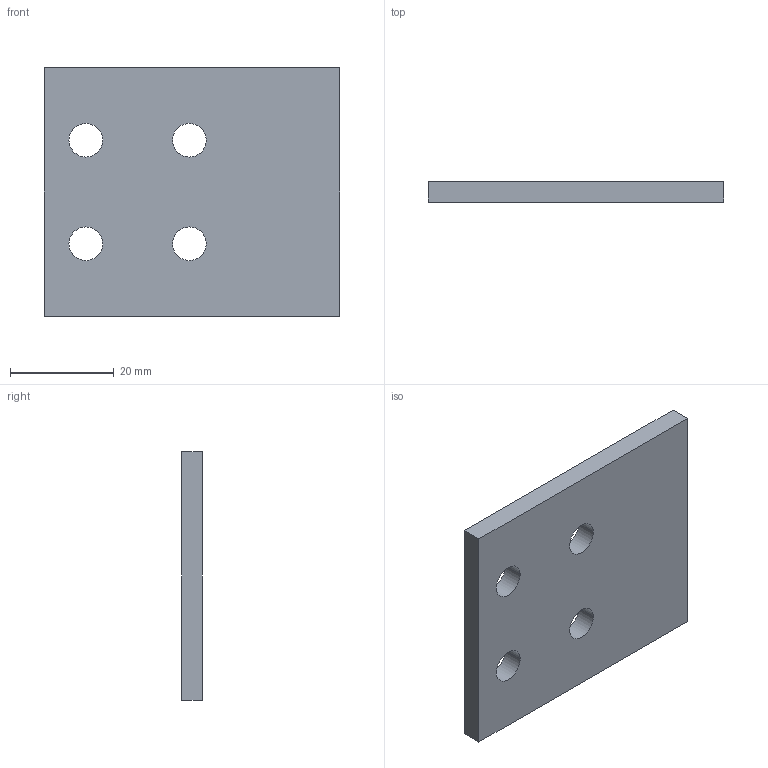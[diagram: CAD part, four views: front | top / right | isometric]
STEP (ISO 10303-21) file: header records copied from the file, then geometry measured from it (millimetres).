
FILE_DESCRIPTION( ( '' ), '1' );
FILE_NAME( 'E:/04 嬴檜蠱滌/0404 ZIMMER/040414 ZIMMER CAD download/Adapt plate/PLK for LKP, LKPS/PLK25-4.stp', '2020-04-16T10:19:42', ( '' ), ( '' ), ' ', ' ', ' ' );
FILE_SCHEMA( ( 'automotive_design' ) );
Length unit declared in the file: millimetre
Products named in the file (1): 1
Bounding box: 57 x 4 x 48 mm (x, y, z)
Volume: 10413.1 mm3; surface area: 6373.3 mm2
Topology: 1 solids, 1 shells, 14 faces, 36 edges, 24 vertices
Faces by surface type: cylinder 8, plane 6
Entity records: 888 total; most frequent: DIRECTION 82, STYLED_ITEM 75, PRESENTATION_STYLE_ASSIGNMENT 75, CARTESIAN_POINT 75, COLOUR_RGB 75, ORIENTED_EDGE 72, EDGE_CURVE 36, CURVE_STYLE 36
